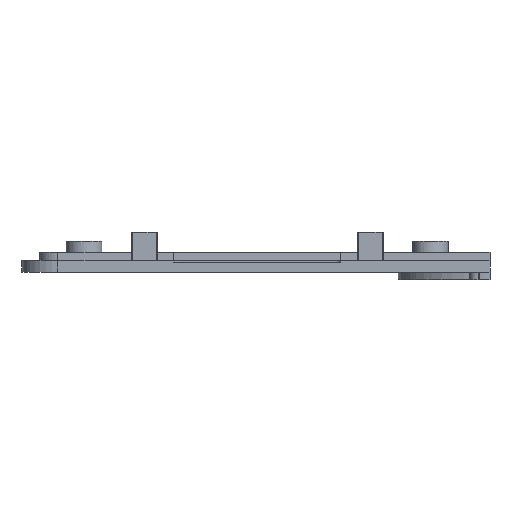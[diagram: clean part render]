
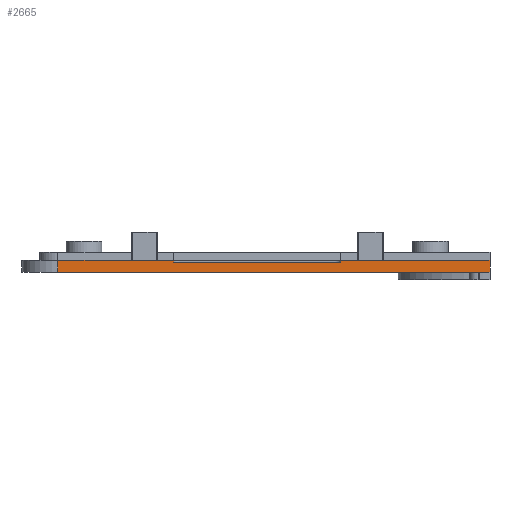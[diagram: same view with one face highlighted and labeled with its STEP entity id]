
A CAD part, front view. The second image highlights one B-rep face of the part: STEP entity #2665.
In plain terms, the highlighted planar face has unit normal (0, -1, 0).
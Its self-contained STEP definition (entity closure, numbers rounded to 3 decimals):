
#44 = PLANE('',#45);
#45 = AXIS2_PLACEMENT_3D('',#46,#47,#48);
#46 = CARTESIAN_POINT('',(-39.5,-27.9,0.));
#47 = DIRECTION('',(-0.,-0.,-1.));
#48 = DIRECTION('',(-1.,0.,0.));
#72 = CYLINDRICAL_SURFACE('',#73,3.);
#73 = AXIS2_PLACEMENT_3D('',#74,#75,#76);
#74 = CARTESIAN_POINT('',(-36.5,-24.9,1.));
#75 = DIRECTION('',(-0.,-0.,-1.));
#76 = DIRECTION('',(-1.,-0.,-0.));
#100 = PLANE('',#101);
#101 = AXIS2_PLACEMENT_3D('',#102,#103,#104);
#102 = CARTESIAN_POINT('',(-39.5,-27.9,1.));
#103 = DIRECTION('',(0.,-0.,-1.));
#104 = DIRECTION('',(-1.,0.,0.));
#143 = VERTEX_POINT('',#144);
#144 = CARTESIAN_POINT('',(-36.5,-27.9,0.));
#170 = EDGE_CURVE('',#143,#171,#173,.T.);
#171 = VERTEX_POINT('',#172);
#172 = CARTESIAN_POINT('',(-0.3,-27.9,0.));
#173 = SURFACE_CURVE('',#174,(#178,#185),.PCURVE_S1.);
#174 = LINE('',#175,#176);
#175 = CARTESIAN_POINT('',(-36.5,-27.9,0.));
#176 = VECTOR('',#177,1.);
#177 = DIRECTION('',(1.,-0.,-0.));
#178 = PCURVE('',#44,#179);
#179 = DEFINITIONAL_REPRESENTATION('',(#180),#184);
#180 = LINE('',#181,#182);
#181 = CARTESIAN_POINT('',(-3.,0.));
#182 = VECTOR('',#183,1.);
#183 = DIRECTION('',(-1.,0.));
#184 = ( GEOMETRIC_REPRESENTATION_CONTEXT(2) 
PARAMETRIC_REPRESENTATION_CONTEXT() REPRESENTATION_CONTEXT('2D SPACE',''
  ) );
#185 = PCURVE('',#186,#191);
#186 = PLANE('',#187);
#187 = AXIS2_PLACEMENT_3D('',#188,#189,#190);
#188 = CARTESIAN_POINT('',(-39.5,-27.9,1.));
#189 = DIRECTION('',(-0.,1.,-0.));
#190 = DIRECTION('',(0.,0.,1.));
#191 = DEFINITIONAL_REPRESENTATION('',(#192),#196);
#192 = LINE('',#193,#194);
#193 = CARTESIAN_POINT('',(-1.,3.));
#194 = VECTOR('',#195,1.);
#195 = DIRECTION('',(-0.,1.));
#196 = ( GEOMETRIC_REPRESENTATION_CONTEXT(2) 
PARAMETRIC_REPRESENTATION_CONTEXT() REPRESENTATION_CONTEXT('2D SPACE',''
  ) );
#214 = PLANE('',#215);
#215 = AXIS2_PLACEMENT_3D('',#216,#217,#218);
#216 = CARTESIAN_POINT('',(-0.3,-28.4,12.1));
#217 = DIRECTION('',(1.,0.,-0.));
#218 = DIRECTION('',(0.,0.,1.));
#817 = VERTEX_POINT('',#818);
#818 = CARTESIAN_POINT('',(-36.5,-27.9,1.));
#844 = EDGE_CURVE('',#817,#143,#845,.T.);
#845 = SURFACE_CURVE('',#846,(#850,#857),.PCURVE_S1.);
#846 = LINE('',#847,#848);
#847 = CARTESIAN_POINT('',(-36.5,-27.9,1.));
#848 = VECTOR('',#849,1.);
#849 = DIRECTION('',(-0.,0.,-1.));
#850 = PCURVE('',#72,#851);
#851 = DEFINITIONAL_REPRESENTATION('',(#852),#856);
#852 = LINE('',#853,#854);
#853 = CARTESIAN_POINT('',(-1.571,0.));
#854 = VECTOR('',#855,1.);
#855 = DIRECTION('',(-0.,1.));
#856 = ( GEOMETRIC_REPRESENTATION_CONTEXT(2) 
PARAMETRIC_REPRESENTATION_CONTEXT() REPRESENTATION_CONTEXT('2D SPACE',''
  ) );
#857 = PCURVE('',#186,#858);
#858 = DEFINITIONAL_REPRESENTATION('',(#859),#863);
#859 = LINE('',#860,#861);
#860 = CARTESIAN_POINT('',(0.,3.));
#861 = VECTOR('',#862,1.);
#862 = DIRECTION('',(-1.,0.));
#863 = ( GEOMETRIC_REPRESENTATION_CONTEXT(2) 
PARAMETRIC_REPRESENTATION_CONTEXT() REPRESENTATION_CONTEXT('2D SPACE',''
  ) );
#871 = EDGE_CURVE('',#817,#872,#874,.T.);
#872 = VERTEX_POINT('',#873);
#873 = CARTESIAN_POINT('',(-26.8,-27.9,1.));
#874 = SURFACE_CURVE('',#875,(#879,#886),.PCURVE_S1.);
#875 = LINE('',#876,#877);
#876 = CARTESIAN_POINT('',(-39.5,-27.9,1.));
#877 = VECTOR('',#878,1.);
#878 = DIRECTION('',(1.,0.,-0.));
#879 = PCURVE('',#100,#880);
#880 = DEFINITIONAL_REPRESENTATION('',(#881),#885);
#881 = LINE('',#882,#883);
#882 = CARTESIAN_POINT('',(-0.,0.));
#883 = VECTOR('',#884,1.);
#884 = DIRECTION('',(-1.,0.));
#885 = ( GEOMETRIC_REPRESENTATION_CONTEXT(2) 
PARAMETRIC_REPRESENTATION_CONTEXT() REPRESENTATION_CONTEXT('2D SPACE',''
  ) );
#886 = PCURVE('',#186,#887);
#887 = DEFINITIONAL_REPRESENTATION('',(#888),#892);
#888 = LINE('',#889,#890);
#889 = CARTESIAN_POINT('',(0.,-0.));
#890 = VECTOR('',#891,1.);
#891 = DIRECTION('',(0.,1.));
#892 = ( GEOMETRIC_REPRESENTATION_CONTEXT(2) 
PARAMETRIC_REPRESENTATION_CONTEXT() REPRESENTATION_CONTEXT('2D SPACE',''
  ) );
#910 = PLANE('',#911);
#911 = AXIS2_PLACEMENT_3D('',#912,#913,#914);
#912 = CARTESIAN_POINT('',(-26.8,-31.9,7.85));
#913 = DIRECTION('',(1.,0.,-0.));
#914 = DIRECTION('',(0.,0.,1.));
#2509 = EDGE_CURVE('',#171,#2510,#2512,.T.);
#2510 = VERTEX_POINT('',#2511);
#2511 = CARTESIAN_POINT('',(-0.3,-27.9,1.));
#2512 = SURFACE_CURVE('',#2513,(#2517,#2524),.PCURVE_S1.);
#2513 = LINE('',#2514,#2515);
#2514 = CARTESIAN_POINT('',(-0.3,-27.9,6.55));
#2515 = VECTOR('',#2516,1.);
#2516 = DIRECTION('',(-0.,-0.,1.));
#2517 = PCURVE('',#214,#2518);
#2518 = DEFINITIONAL_REPRESENTATION('',(#2519),#2523);
#2519 = LINE('',#2520,#2521);
#2520 = CARTESIAN_POINT('',(-5.55,-0.5));
#2521 = VECTOR('',#2522,1.);
#2522 = DIRECTION('',(1.,-0.));
#2523 = ( GEOMETRIC_REPRESENTATION_CONTEXT(2) 
PARAMETRIC_REPRESENTATION_CONTEXT() REPRESENTATION_CONTEXT('2D SPACE',''
  ) );
#2524 = PCURVE('',#186,#2525);
#2525 = DEFINITIONAL_REPRESENTATION('',(#2526),#2530);
#2526 = LINE('',#2527,#2528);
#2527 = CARTESIAN_POINT('',(5.55,39.2));
#2528 = VECTOR('',#2529,1.);
#2529 = DIRECTION('',(1.,-0.));
#2530 = ( GEOMETRIC_REPRESENTATION_CONTEXT(2) 
PARAMETRIC_REPRESENTATION_CONTEXT() REPRESENTATION_CONTEXT('2D SPACE',''
  ) );
#2548 = PLANE('',#2549);
#2549 = AXIS2_PLACEMENT_3D('',#2550,#2551,#2552);
#2550 = CARTESIAN_POINT('',(-39.5,-27.9,1.));
#2551 = DIRECTION('',(0.,-0.,-1.));
#2552 = DIRECTION('',(-1.,0.,0.));
#2665 = ADVANCED_FACE('',(#2666),#186,.F.);
#2666 = FACE_BOUND('',#2667,.T.);
#2667 = EDGE_LOOP('',(#2668,#2669,#2670,#2693,#2721,#2749,#2770,#2771));
#2668 = ORIENTED_EDGE('',*,*,#170,.T.);
#2669 = ORIENTED_EDGE('',*,*,#2509,.T.);
#2670 = ORIENTED_EDGE('',*,*,#2671,.F.);
#2671 = EDGE_CURVE('',#2672,#2510,#2674,.T.);
#2672 = VERTEX_POINT('',#2673);
#2673 = CARTESIAN_POINT('',(-12.8,-27.9,1.));
#2674 = SURFACE_CURVE('',#2675,(#2679,#2686),.PCURVE_S1.);
#2675 = LINE('',#2676,#2677);
#2676 = CARTESIAN_POINT('',(-39.5,-27.9,1.));
#2677 = VECTOR('',#2678,1.);
#2678 = DIRECTION('',(1.,0.,-0.));
#2679 = PCURVE('',#186,#2680);
#2680 = DEFINITIONAL_REPRESENTATION('',(#2681),#2685);
#2681 = LINE('',#2682,#2683);
#2682 = CARTESIAN_POINT('',(0.,-0.));
#2683 = VECTOR('',#2684,1.);
#2684 = DIRECTION('',(0.,1.));
#2685 = ( GEOMETRIC_REPRESENTATION_CONTEXT(2) 
PARAMETRIC_REPRESENTATION_CONTEXT() REPRESENTATION_CONTEXT('2D SPACE',''
  ) );
#2686 = PCURVE('',#2548,#2687);
#2687 = DEFINITIONAL_REPRESENTATION('',(#2688),#2692);
#2688 = LINE('',#2689,#2690);
#2689 = CARTESIAN_POINT('',(-0.,0.));
#2690 = VECTOR('',#2691,1.);
#2691 = DIRECTION('',(-1.,0.));
#2692 = ( GEOMETRIC_REPRESENTATION_CONTEXT(2) 
PARAMETRIC_REPRESENTATION_CONTEXT() REPRESENTATION_CONTEXT('2D SPACE',''
  ) );
#2693 = ORIENTED_EDGE('',*,*,#2694,.F.);
#2694 = EDGE_CURVE('',#2695,#2672,#2697,.T.);
#2695 = VERTEX_POINT('',#2696);
#2696 = CARTESIAN_POINT('',(-12.8,-27.9,0.85));
#2697 = SURFACE_CURVE('',#2698,(#2702,#2709),.PCURVE_S1.);
#2698 = LINE('',#2699,#2700);
#2699 = CARTESIAN_POINT('',(-12.8,-27.9,4.425));
#2700 = VECTOR('',#2701,1.);
#2701 = DIRECTION('',(-0.,-0.,1.));
#2702 = PCURVE('',#186,#2703);
#2703 = DEFINITIONAL_REPRESENTATION('',(#2704),#2708);
#2704 = LINE('',#2705,#2706);
#2705 = CARTESIAN_POINT('',(3.425,26.7));
#2706 = VECTOR('',#2707,1.);
#2707 = DIRECTION('',(1.,-0.));
#2708 = ( GEOMETRIC_REPRESENTATION_CONTEXT(2) 
PARAMETRIC_REPRESENTATION_CONTEXT() REPRESENTATION_CONTEXT('2D SPACE',''
  ) );
#2709 = PCURVE('',#2710,#2715);
#2710 = PLANE('',#2711);
#2711 = AXIS2_PLACEMENT_3D('',#2712,#2713,#2714);
#2712 = CARTESIAN_POINT('',(-12.8,-31.9,7.85));
#2713 = DIRECTION('',(1.,0.,-0.));
#2714 = DIRECTION('',(0.,0.,1.));
#2715 = DEFINITIONAL_REPRESENTATION('',(#2716),#2720);
#2716 = LINE('',#2717,#2718);
#2717 = CARTESIAN_POINT('',(-3.425,-4.));
#2718 = VECTOR('',#2719,1.);
#2719 = DIRECTION('',(1.,-0.));
#2720 = ( GEOMETRIC_REPRESENTATION_CONTEXT(2) 
PARAMETRIC_REPRESENTATION_CONTEXT() REPRESENTATION_CONTEXT('2D SPACE',''
  ) );
#2721 = ORIENTED_EDGE('',*,*,#2722,.F.);
#2722 = EDGE_CURVE('',#2723,#2695,#2725,.T.);
#2723 = VERTEX_POINT('',#2724);
#2724 = CARTESIAN_POINT('',(-26.8,-27.9,0.85));
#2725 = SURFACE_CURVE('',#2726,(#2730,#2737),.PCURVE_S1.);
#2726 = LINE('',#2727,#2728);
#2727 = CARTESIAN_POINT('',(-33.15,-27.9,0.85));
#2728 = VECTOR('',#2729,1.);
#2729 = DIRECTION('',(1.,-0.,-0.));
#2730 = PCURVE('',#186,#2731);
#2731 = DEFINITIONAL_REPRESENTATION('',(#2732),#2736);
#2732 = LINE('',#2733,#2734);
#2733 = CARTESIAN_POINT('',(-0.15,6.35));
#2734 = VECTOR('',#2735,1.);
#2735 = DIRECTION('',(-0.,1.));
#2736 = ( GEOMETRIC_REPRESENTATION_CONTEXT(2) 
PARAMETRIC_REPRESENTATION_CONTEXT() REPRESENTATION_CONTEXT('2D SPACE',''
  ) );
#2737 = PCURVE('',#2738,#2743);
#2738 = PLANE('',#2739);
#2739 = AXIS2_PLACEMENT_3D('',#2740,#2741,#2742);
#2740 = CARTESIAN_POINT('',(-26.8,-31.9,0.85));
#2741 = DIRECTION('',(0.,-0.,-1.));
#2742 = DIRECTION('',(-1.,0.,0.));
#2743 = DEFINITIONAL_REPRESENTATION('',(#2744),#2748);
#2744 = LINE('',#2745,#2746);
#2745 = CARTESIAN_POINT('',(6.35,4.));
#2746 = VECTOR('',#2747,1.);
#2747 = DIRECTION('',(-1.,0.));
#2748 = ( GEOMETRIC_REPRESENTATION_CONTEXT(2) 
PARAMETRIC_REPRESENTATION_CONTEXT() REPRESENTATION_CONTEXT('2D SPACE',''
  ) );
#2749 = ORIENTED_EDGE('',*,*,#2750,.T.);
#2750 = EDGE_CURVE('',#2723,#872,#2751,.T.);
#2751 = SURFACE_CURVE('',#2752,(#2756,#2763),.PCURVE_S1.);
#2752 = LINE('',#2753,#2754);
#2753 = CARTESIAN_POINT('',(-26.8,-27.9,4.425));
#2754 = VECTOR('',#2755,1.);
#2755 = DIRECTION('',(-0.,-0.,1.));
#2756 = PCURVE('',#186,#2757);
#2757 = DEFINITIONAL_REPRESENTATION('',(#2758),#2762);
#2758 = LINE('',#2759,#2760);
#2759 = CARTESIAN_POINT('',(3.425,12.7));
#2760 = VECTOR('',#2761,1.);
#2761 = DIRECTION('',(1.,-0.));
#2762 = ( GEOMETRIC_REPRESENTATION_CONTEXT(2) 
PARAMETRIC_REPRESENTATION_CONTEXT() REPRESENTATION_CONTEXT('2D SPACE',''
  ) );
#2763 = PCURVE('',#910,#2764);
#2764 = DEFINITIONAL_REPRESENTATION('',(#2765),#2769);
#2765 = LINE('',#2766,#2767);
#2766 = CARTESIAN_POINT('',(-3.425,-4.));
#2767 = VECTOR('',#2768,1.);
#2768 = DIRECTION('',(1.,-0.));
#2769 = ( GEOMETRIC_REPRESENTATION_CONTEXT(2) 
PARAMETRIC_REPRESENTATION_CONTEXT() REPRESENTATION_CONTEXT('2D SPACE',''
  ) );
#2770 = ORIENTED_EDGE('',*,*,#871,.F.);
#2771 = ORIENTED_EDGE('',*,*,#844,.T.);
